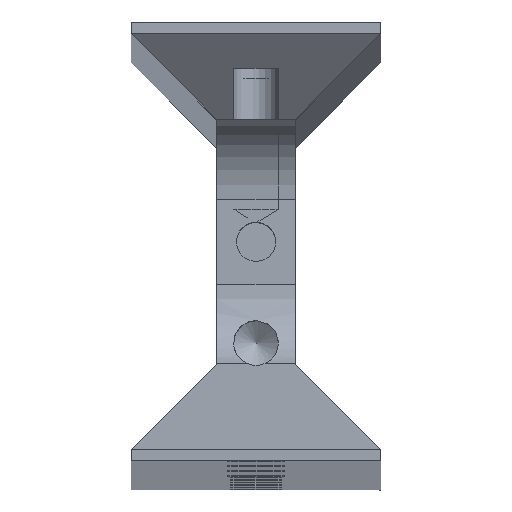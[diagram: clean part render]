
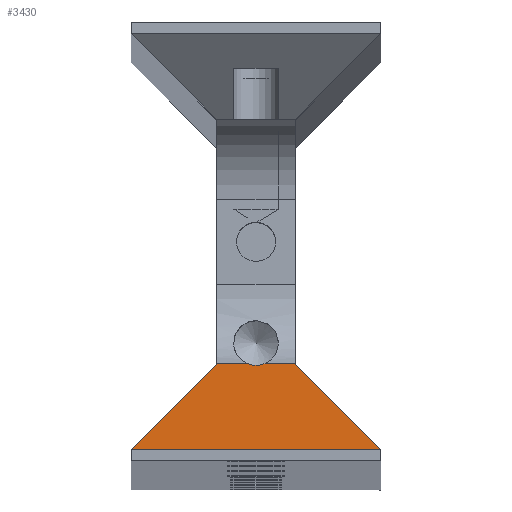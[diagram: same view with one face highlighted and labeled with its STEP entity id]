
A CAD part, top view. The second image highlights one B-rep face of the part: STEP entity #3430.
In plain terms, the highlighted planar face has unit normal (0, 0.94, 0.342).
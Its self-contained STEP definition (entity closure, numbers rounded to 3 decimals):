
#139=PLANE('',#3805);
#183=LINE('',#5108,#418);
#185=LINE('',#5115,#420);
#333=LINE('',#5806,#568);
#334=LINE('',#5808,#569);
#335=LINE('',#5810,#570);
#336=LINE('',#5812,#571);
#337=LINE('',#5813,#572);
#418=VECTOR('',#3948,2.7);
#420=VECTOR('',#3954,2.7);
#568=VECTOR('',#4674,0.196);
#569=VECTOR('',#4675,23.485);
#570=VECTOR('',#4676,22.2);
#571=VECTOR('',#4677,23.485);
#572=VECTOR('',#4678,0.196);
#653=ELLIPSE('',#3516,5.848,2.);
#1045=FACE_OUTER_BOUND('',#1330,.T.);
#1330=EDGE_LOOP('',(#2890,#2891,#2892,#2893,#2894,#2895,#2896,#2897));
#1658=VERTEX_POINT('',#5073);
#1659=VERTEX_POINT('',#5074);
#1660=VERTEX_POINT('',#5107);
#1663=VERTEX_POINT('',#5113);
#1889=VERTEX_POINT('',#5805);
#1890=VERTEX_POINT('',#5807);
#1891=VERTEX_POINT('',#5809);
#1892=VERTEX_POINT('',#5811);
#1981=EDGE_CURVE('',#1658,#1659,#653,.T.);
#1983=EDGE_CURVE('',#1658,#1660,#183,.T.);
#1987=EDGE_CURVE('',#1663,#1659,#185,.T.);
#2282=EDGE_CURVE('',#1889,#1663,#333,.T.);
#2283=EDGE_CURVE('',#1890,#1889,#334,.T.);
#2284=EDGE_CURVE('',#1891,#1890,#335,.T.);
#2285=EDGE_CURVE('',#1892,#1891,#336,.T.);
#2286=EDGE_CURVE('',#1660,#1892,#337,.T.);
#2890=ORIENTED_EDGE('',*,*,#1981,.T.);
#2891=ORIENTED_EDGE('',*,*,#1987,.F.);
#2892=ORIENTED_EDGE('',*,*,#2282,.F.);
#2893=ORIENTED_EDGE('',*,*,#2283,.F.);
#2894=ORIENTED_EDGE('',*,*,#2284,.F.);
#2895=ORIENTED_EDGE('',*,*,#2285,.F.);
#2896=ORIENTED_EDGE('',*,*,#2286,.F.);
#2897=ORIENTED_EDGE('',*,*,#1983,.F.);
#3430=ADVANCED_FACE('',(#1045),#139,.F.);
#3516=AXIS2_PLACEMENT_3D('',#5075,#3944,#3945);
#3805=AXIS2_PLACEMENT_3D('',#5804,#4672,#4673);
#3944=DIRECTION('center_axis',(0.,-0.94,-0.342));
#3945=DIRECTION('ref_axis',(0.,0.342,-0.94));
#3948=DIRECTION('',(1.,0.,0.));
#3954=DIRECTION('',(1.,0.,0.));
#4672=DIRECTION('center_axis',(0.,-0.94,-0.342));
#4673=DIRECTION('ref_axis',(0.,0.342,-0.94));
#4674=DIRECTION('',(0.,0.342,-0.94));
#4675=DIRECTION('',(0.324,0.324,-0.889));
#4676=DIRECTION('',(-1.,0.,0.));
#4677=DIRECTION('',(0.324,-0.324,0.889));
#4678=DIRECTION('',(0.,-0.342,0.94));
#5073=CARTESIAN_POINT('',(0.8,8.667,1505.035));
#5074=CARTESIAN_POINT('',(-0.8,8.667,1505.035));
#5075=CARTESIAN_POINT('Origin',(0.,10.5,1499.999));
#5107=CARTESIAN_POINT('',(3.5,8.667,1505.035));
#5108=CARTESIAN_POINT('',(0.,8.667,1505.035));
#5113=CARTESIAN_POINT('',(-3.5,8.667,1505.035));
#5115=CARTESIAN_POINT('',(0.,8.667,1505.035));
#5804=CARTESIAN_POINT('Origin',(0.,8.667,1505.035));
#5805=CARTESIAN_POINT('',(-3.5,8.6,1505.219));
#5806=CARTESIAN_POINT('',(-3.5,250.518,840.556));
#5807=CARTESIAN_POINT('',(-11.1,1.,1526.1));
#5808=CARTESIAN_POINT('',(212.47,224.57,911.847));
#5809=CARTESIAN_POINT('',(11.1,1.,1526.1));
#5810=CARTESIAN_POINT('',(0.,1.,1526.1));
#5811=CARTESIAN_POINT('',(3.5,8.6,1505.219));
#5812=CARTESIAN_POINT('',(-213.266,225.366,909.661));
#5813=CARTESIAN_POINT('',(3.5,251.793,837.053));
